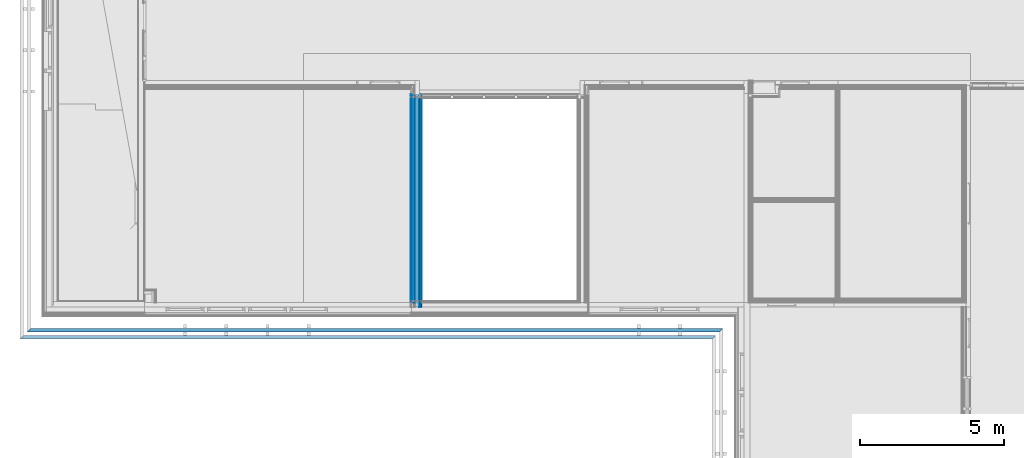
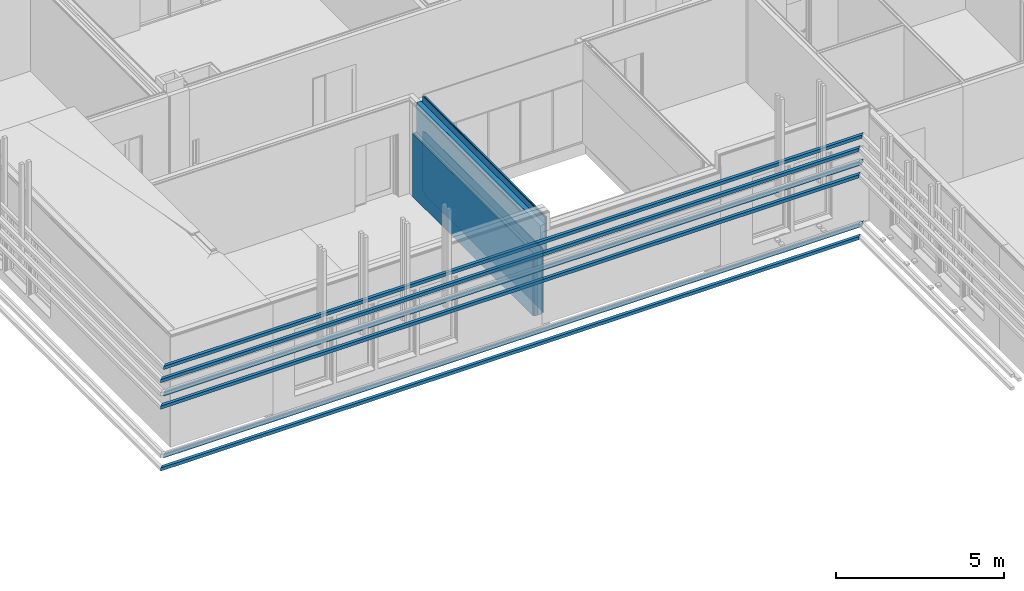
# One storey, part 81 of 139: 13 building element parts, 3 discrete accessories, 2 elements without a shape of their own.
"""IFC2X3 building model written with IfcOpenShell, lengths in millimetres."""

from ifc_helpers import new_model, entity, si_unit, converted_unit, derived_unit, money_unit, direction, frame, origin_with_axes, place, context, subcontext, project, spatial, faceted_brep, material, material_list, type_object, element, aggregate, save


model = new_model("IFC2X3")

# Units and contexts
model_context = context("Model", 3, precision=0.01, world=origin_with_axes(), true_north=direction((0.0, 1.0)))
body_context = subcontext(model_context, "Body", "Model", "MODEL_VIEW")
ifc_project = project(units=[si_unit("LENGTHUNIT", "METRE", prefix="MILLI"), si_unit("AREAUNIT", "SQUARE_METRE"), si_unit("VOLUMEUNIT", "CUBIC_METRE"), converted_unit("PLANEANGLEUNIT", "DEGREE", entity("IfcPlaneAngleMeasure", 0.0174532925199), si_unit("PLANEANGLEUNIT", "RADIAN"), dimensions=[0, 0, 0, 0, 0, 0, 0]), money_unit("EUR"), converted_unit("TIMEUNIT", "Year", entity("IfcTimeMeasure", 31556926.0), si_unit("TIMEUNIT", "SECOND"), dimensions=[0, 0, 1, 0, 0, 0, 0]), si_unit("MASSUNIT", "GRAM", prefix="KILO"), si_unit("THERMODYNAMICTEMPERATUREUNIT", "DEGREE_CELSIUS"), si_unit("LUMINOUSINTENSITYUNIT", "LUMEN"), si_unit("ENERGYUNIT", "JOULE", prefix="MEGA"), derived_unit("THERMALCONDUCTANCEUNIT", [(si_unit("POWERUNIT", "WATT"), 1), (si_unit("LENGTHUNIT", "METRE"), -1), (si_unit("THERMODYNAMICTEMPERATUREUNIT", "KELVIN"), -1)]), derived_unit("SPECIFICHEATCAPACITYUNIT", [(si_unit("ENERGYUNIT", "JOULE"), 1), (si_unit("MASSUNIT", "GRAM", prefix="KILO"), -1), (si_unit("THERMODYNAMICTEMPERATUREUNIT", "KELVIN"), -1)]), derived_unit("MASSDENSITYUNIT", [(si_unit("MASSUNIT", "GRAM", prefix="KILO"), 1), (si_unit("VOLUMEUNIT", "CUBIC_METRE"), -1)])], contexts=[model_context])

# Site, building, storey
site_placement = place(None, origin_with_axes())
site = spatial("IfcSite", under=ifc_project, at=site_placement, Name="Kolde pst 67a", CompositionType="ELEMENT")
building_placement = place(site_placement, origin_with_axes())
building = spatial("IfcBuilding", under=site, at=building_placement, Name="Riigigümnaasium", CompositionType="ELEMENT")
storey_placement = place(building_placement, frame((0.0, 0.0, 4600.0), z_axis=(0.0, 0.0, 1.0), x_axis=(1.0, 0.0, 0.0)))
storey = spatial("IfcBuildingStorey", under=building, at=storey_placement, Name="2. korrus", CompositionType="ELEMENT", Elevation=4600.0)

# Discrete accessories
ifc_material_1 = material(Name="_VÄLISVIIMISTLUS - sõrmjätkatud puitprussid 120x115mm, liitekohad vähemärgatavad, Platowood sõrmjätkatud kuusk või samaväärne; eeltöödeldud tuletõkkevõõbaga, tuletundlikkus B-s1, d0, Woodsafe Exterior WFX™ või samaväärne; kinnitused vastavalt EK osale")
ifc_material_list = material_list([ifc_material_1, ifc_material_1])
discrete_accessory_type = type_object("IfcDiscreteAccessoryType", Name="1+paiksekaitse 4 tk nihkes 2 370 x 355")
discrete_accessory_1_placement = place(storey_placement, frame((-323.006615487, 47673.7129518, 3110.0), z_axis=(0.0, 0.0, 1.0), x_axis=(0.00030565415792, -0.999999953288, 0.0)))
element("IfcDiscreteAccessory", 1, at=discrete_accessory_1_placement, inside=storey, type_object=discrete_accessory_type, material=ifc_material_list, Name="Päikesevarjestus", context=body_context, shape_type="Brep", body=[
    faceted_brep([(495.0, 1345.3259295, 357.5), (493.447495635, 1345.32649514, 357.364173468), (493.489394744, 1460.32648751, 357.367839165), (495.0, 1460.32593714, 357.5), (495.0, 2060.31977462, 357.5), (493.66588954, 2060.3201824, 357.383280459), (493.701039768, 2175.32017703, 357.386355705), (495.0, 2175.31977999, 357.5), (495.0, 2775.32748314, 357.5), (493.937983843, 2775.32787008, 357.407085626), (493.979882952, 2890.32786245, 357.410751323), (495.0, 2890.32749078, 357.5), (495.0, 3490.31984142, 357.5), (494.102974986, 3490.3201156, 357.42152048), (494.138125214, 3605.32011023, 357.424595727), (495.0, 3605.31984679, 357.5), (495.0, 4205.32757559, 357.5), (494.42847155, 4205.32778382, 357.44999774), (494.470370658, 4320.32777619, 357.453663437), (495.0, 4320.32758322, 357.5), (495.0, 4920.31990822, 357.5), (494.540060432, 4920.3200488, 357.459760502), (494.57521066, 5035.32004343, 357.462835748), (495.0, 5035.31991359, 357.5), (495.0, 5635.32912923, 357.5), (494.918959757, 5635.32915876, 357.492909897), (494.960858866, 5750.32915113, 357.496575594), (495.0, 5750.32913687, 357.5), (495.0, 6350.31997502, 357.5), (494.977145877, 6350.319982, 357.498000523), (495.0, 6425.09115995, 357.5), (495.0, 23502.8623069, 357.5), (375.0, 23622.898991, 347.001360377), (375.0, -375.114708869, 347.001360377), (495.0, -495.151415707, 357.5), (495.0, 630.319707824, 357.5), (493.228804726, 630.320249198, 357.345040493), (493.263954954, 745.320243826, 357.348115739), (495.0, 745.319713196, 357.5), (495.0, 1345.3259295, 242.5), (493.447495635, 1345.32649514, 242.5), (493.489394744, 1460.32648751, 242.5), (495.0, 1460.32593714, 242.5), (495.0, 2060.31977462, 242.5), (493.66588954, 2060.3201824, 242.5), (493.701039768, 2175.32017703, 242.5), (495.0, 2175.31977999, 242.5), (495.0, 2775.32748314, 242.5), (493.937983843, 2775.32787008, 242.5), (493.979882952, 2890.32786245, 242.5), (495.0, 2890.32749078, 242.5), (495.0, 3490.31984142, 242.5), (494.102974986, 3490.3201156, 242.5), (494.138125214, 3605.32011023, 242.5), (495.0, 3605.31984679, 242.5), (495.0, 4205.32757559, 242.5), (494.42847155, 4205.32778382, 242.5), (494.470370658, 4320.32777619, 242.5), (495.0, 4320.32758322, 242.5), (495.0, 4920.31990822, 242.5), (494.540060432, 4920.3200488, 242.5), (494.57521066, 5035.32004343, 242.5), (495.0, 5035.31991359, 242.5), (495.0, 5635.32912923, 242.5), (494.918959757, 5635.32915876, 242.5), (494.960858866, 5750.32915113, 242.5), (495.0, 5750.32913687, 242.5), (495.0, 6350.31997502, 242.5), (494.977145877, 6350.319982, 242.5), (495.0, 6425.09115995, 242.5), (495.0, 23502.8623069, 242.5), (375.0, 23622.898991, 242.5), (375.0, -375.114708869, 242.5), (495.0, -495.151415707, 242.5), (495.0, 630.319707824, 242.5), (493.228804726, 630.320249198, 242.5), (493.263954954, 745.320243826, 242.5), (495.0, 745.319713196, 242.5)], [[[0, 1, 2, 3, 4, 5, 6, 7, 8, 9, 10, 11, 12, 13, 14, 15, 16, 17, 18, 19, 20, 21, 22, 23, 24, 25, 26, 27, 28, 29, 30, 31, 32, 33, 34, 35, 36, 37, 38]], [[1, 0, 39, 40]], [[2, 1, 40, 41]], [[3, 2, 41, 42]], [[3, 42, 43, 4]], [[5, 4, 43, 44]], [[6, 5, 44, 45]], [[7, 6, 45, 46]], [[47, 8, 7, 46]], [[9, 8, 47, 48]], [[10, 9, 48, 49]], [[11, 10, 49, 50]], [[11, 50, 51, 12]], [[13, 12, 51, 52]], [[14, 13, 52, 53]], [[15, 14, 53, 54]], [[55, 16, 15, 54]], [[17, 16, 55, 56]], [[18, 17, 56, 57]], [[19, 18, 57, 58]], [[19, 58, 59, 20]], [[21, 20, 59, 60]], [[22, 21, 60, 61]], [[23, 22, 61, 62]], [[63, 24, 23, 62]], [[25, 24, 63, 64]], [[26, 25, 64, 65]], [[27, 26, 65, 66]], [[27, 66, 67, 28]], [[29, 28, 67, 68]], [[69, 30, 29, 68]], [[30, 69, 70, 31]], [[71, 32, 31, 70]], [[71, 72, 33, 32]], [[72, 73, 34, 33]], [[74, 35, 34, 73]], [[36, 35, 74, 75]], [[37, 36, 75, 76]], [[38, 37, 76, 77]], [[39, 0, 38, 77]], [[40, 39, 77, 76, 75, 74, 73, 72, 71, 70, 69, 68, 67, 66, 65, 64, 63, 62, 61, 60, 59, 58, 57, 56, 55, 54, 53, 52, 51, 50, 49, 48, 47, 46, 45, 44, 43, 42, 41]]]),
    faceted_brep([(745.0, 1345.23484448, 117.5), (743.447479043, 1345.23541012, 117.364172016), (743.489378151, 1460.23540249, 117.367837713), (745.0, 1460.23485211, 117.5), (745.0, 2775.23639812, 117.5), (743.93796725, 2775.23678506, 117.407084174), (743.979866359, 2890.23677743, 117.410749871), (745.0, 2890.23640575, 117.5), (745.0, 4205.23649057, 117.5), (744.428454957, 4205.2366988, 117.449996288), (744.470354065, 4320.23669117, 117.453661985), (745.0, 4320.2364982, 117.5), (745.0, 5635.23804421, 117.5), (744.918943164, 5635.23807374, 117.492908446), (744.960842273, 5750.23806611, 117.496574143), (745.0, 5750.23805184, 117.5), (745.0, 23252.7858817, 117.5), (625.0, 23372.8225658, 107.001360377), (625.0, -625.191181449, 107.001360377), (745.0, -745.227888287, 117.5), (745.0, 1345.23484448, 2.5), (743.447479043, 1345.23541012, 2.5), (743.489378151, 1460.23540249, 2.5), (745.0, 1460.23485211, 2.5), (745.0, 2775.23639812, 2.5), (743.93796725, 2775.23678506, 2.5), (743.979866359, 2890.23677743, 2.5), (745.0, 2890.23640575, 2.5), (745.0, 4205.23649057, 2.5), (744.428454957, 4205.2366988, 2.5), (744.470354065, 4320.23669117, 2.5), (745.0, 4320.2364982, 2.5), (745.0, 5635.23804421, 2.5), (744.918943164, 5635.23807374, 2.5), (744.960842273, 5750.23806611, 2.5), (745.0, 5750.23805184, 2.5), (745.0, 23252.7858817, 2.5), (625.0, 23372.8225658, 2.5), (625.0, -625.191181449, 2.5), (745.0, -745.227888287, 2.5)], [[[0, 1, 2, 3, 4, 5, 6, 7, 8, 9, 10, 11, 12, 13, 14, 15, 16, 17, 18, 19]], [[1, 0, 20, 21]], [[2, 1, 21, 22]], [[3, 2, 22, 23]], [[3, 23, 24, 4]], [[5, 4, 24, 25]], [[6, 5, 25, 26]], [[7, 6, 26, 27]], [[7, 27, 28, 8]], [[9, 8, 28, 29]], [[10, 9, 29, 30]], [[11, 10, 30, 31]], [[11, 31, 32, 12]], [[13, 12, 32, 33]], [[14, 13, 33, 34]], [[15, 14, 34, 35]], [[15, 35, 36, 16]], [[37, 17, 16, 36]], [[37, 38, 18, 17]], [[38, 39, 19, 18]], [[20, 0, 19, 39]], [[21, 20, 39, 38, 37, 36, 35, 34, 33, 32, 31, 30, 29, 28, 27, 26, 25, 24, 23, 22]]]),
])
discrete_accessory_2_placement = place(storey_placement, frame((-323.006615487, 47673.7129518, -100.0), z_axis=(0.0, 0.0, 1.0), x_axis=(0.000305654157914, -0.999999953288, 0.0)))
element("IfcDiscreteAccessory", 2, at=discrete_accessory_2_placement, inside=storey, type_object=discrete_accessory_type, material=ifc_material_list, Name="Päikesevarjestus", context=body_context, shape_type="Brep", body=[
    faceted_brep([(495.0, 1345.3259295, 357.5), (493.447495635, 1345.32649514, 357.364173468), (493.489394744, 1460.32648751, 357.367839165), (495.0, 1460.32593714, 357.5), (495.0, 2060.31977462, 357.5), (493.66588954, 2060.3201824, 357.383280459), (493.701039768, 2175.32017703, 357.386355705), (495.0, 2175.31977999, 357.5), (495.0, 2775.32748314, 357.5), (493.937983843, 2775.32787008, 357.407085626), (493.979882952, 2890.32786245, 357.410751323), (495.0, 2890.32749078, 357.5), (495.0, 3490.31984142, 357.5), (494.102974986, 3490.3201156, 357.42152048), (494.138125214, 3605.32011023, 357.424595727), (495.0, 3605.31984679, 357.5), (495.0, 4205.32757559, 357.5), (494.42847155, 4205.32778382, 357.44999774), (494.470370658, 4320.32777619, 357.453663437), (495.0, 4320.32758322, 357.5), (495.0, 4920.31990822, 357.5), (494.540060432, 4920.3200488, 357.459760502), (494.57521066, 5035.32004343, 357.462835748), (495.0, 5035.31991359, 357.5), (495.0, 5635.32912923, 357.5), (494.918959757, 5635.32915876, 357.492909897), (494.960858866, 5750.32915113, 357.496575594), (495.0, 5750.32913687, 357.5), (495.0, 6350.31997502, 357.5), (494.977145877, 6350.319982, 357.498000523), (495.0, 6425.09116007, 357.5), (495.0, 23502.8674899, 357.5), (375.0, 23622.9029175, 347.001360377), (375.0, -375.114708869, 347.001360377), (495.0, -495.151415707, 357.5), (495.0, 630.319707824, 357.5), (493.228804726, 630.320249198, 357.345040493), (493.263954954, 745.320243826, 357.348115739), (495.0, 745.319713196, 357.5), (495.0, 1345.3259295, 242.5), (493.447495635, 1345.32649514, 242.5), (493.489394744, 1460.32648751, 242.5), (495.0, 1460.32593714, 242.5), (495.0, 2060.31977462, 242.5), (493.66588954, 2060.3201824, 242.5), (493.701039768, 2175.32017703, 242.5), (495.0, 2175.31977999, 242.5), (495.0, 2775.32748314, 242.5), (493.937983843, 2775.32787008, 242.5), (493.979882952, 2890.32786245, 242.5), (495.0, 2890.32749078, 242.5), (495.0, 3490.31984142, 242.5), (494.102974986, 3490.3201156, 242.5), (494.138125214, 3605.32011023, 242.5), (495.0, 3605.31984679, 242.5), (495.0, 4205.32757559, 242.5), (494.42847155, 4205.32778382, 242.5), (494.470370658, 4320.32777619, 242.5), (495.0, 4320.32758322, 242.5), (495.0, 4920.31990822, 242.5), (494.540060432, 4920.3200488, 242.5), (494.57521066, 5035.32004343, 242.5), (495.0, 5035.31991359, 242.5), (495.0, 5635.32912923, 242.5), (494.918959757, 5635.32915876, 242.5), (494.960858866, 5750.32915113, 242.5), (495.0, 5750.32913687, 242.5), (495.0, 6350.31997502, 242.5), (494.977145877, 6350.319982, 242.5), (495.0, 6425.09116007, 242.5), (495.0, 23502.8674899, 242.5), (375.0, 23622.9029175, 242.5), (375.0, -375.114708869, 242.5), (495.0, -495.151415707, 242.5), (495.0, 630.319707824, 242.5), (493.228804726, 630.320249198, 242.5), (493.263954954, 745.320243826, 242.5), (495.0, 745.319713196, 242.5)], [[[0, 1, 2, 3, 4, 5, 6, 7, 8, 9, 10, 11, 12, 13, 14, 15, 16, 17, 18, 19, 20, 21, 22, 23, 24, 25, 26, 27, 28, 29, 30, 31, 32, 33, 34, 35, 36, 37, 38]], [[1, 0, 39, 40]], [[2, 1, 40, 41]], [[3, 2, 41, 42]], [[3, 42, 43, 4]], [[5, 4, 43, 44]], [[6, 5, 44, 45]], [[7, 6, 45, 46]], [[47, 8, 7, 46]], [[9, 8, 47, 48]], [[10, 9, 48, 49]], [[11, 10, 49, 50]], [[11, 50, 51, 12]], [[13, 12, 51, 52]], [[14, 13, 52, 53]], [[15, 14, 53, 54]], [[55, 16, 15, 54]], [[17, 16, 55, 56]], [[18, 17, 56, 57]], [[19, 18, 57, 58]], [[19, 58, 59, 20]], [[21, 20, 59, 60]], [[22, 21, 60, 61]], [[23, 22, 61, 62]], [[63, 24, 23, 62]], [[25, 24, 63, 64]], [[26, 25, 64, 65]], [[27, 26, 65, 66]], [[27, 66, 67, 28]], [[29, 28, 67, 68]], [[69, 30, 29, 68]], [[30, 69, 70, 31]], [[71, 32, 31, 70]], [[71, 72, 33, 32]], [[72, 73, 34, 33]], [[74, 35, 34, 73]], [[36, 35, 74, 75]], [[37, 36, 75, 76]], [[38, 37, 76, 77]], [[39, 0, 38, 77]], [[40, 39, 77, 76, 75, 74, 73, 72, 71, 70, 69, 68, 67, 66, 65, 64, 63, 62, 61, 60, 59, 58, 57, 56, 55, 54, 53, 52, 51, 50, 49, 48, 47, 46, 45, 44, 43, 42, 41]]]),
    faceted_brep([(745.0, 1345.23484448, 117.5), (743.447479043, 1345.23541012, 117.364172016), (743.489378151, 1460.23540249, 117.367837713), (745.0, 1460.23485211, 117.5), (745.0, 2775.23639812, 117.5), (743.93796725, 2775.23678506, 117.407084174), (743.979866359, 2890.23677743, 117.410749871), (745.0, 2890.23640575, 117.5), (745.0, 4205.23649057, 117.5), (744.428454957, 4205.2366988, 117.449996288), (744.470354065, 4320.23669117, 117.453661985), (745.0, 4320.2364982, 117.5), (745.0, 5635.23804421, 117.5), (744.918943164, 5635.23807374, 117.492908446), (744.960842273, 5750.23806611, 117.496574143), (745.0, 5750.23805184, 117.5), (745.0, 23252.7936823, 117.5), (625.0, 23372.82911, 107.001360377), (625.0, -625.191181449, 107.001360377), (745.0, -745.227888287, 117.5), (745.0, 1345.23484448, 2.5), (743.447479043, 1345.23541012, 2.5), (743.489378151, 1460.23540249, 2.5), (745.0, 1460.23485211, 2.5), (745.0, 2775.23639812, 2.5), (743.93796725, 2775.23678506, 2.5), (743.979866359, 2890.23677743, 2.5), (745.0, 2890.23640575, 2.5), (745.0, 4205.23649057, 2.5), (744.428454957, 4205.2366988, 2.5), (744.470354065, 4320.23669117, 2.5), (745.0, 4320.2364982, 2.5), (745.0, 5635.23804421, 2.5), (744.918943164, 5635.23807374, 2.5), (744.960842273, 5750.23806611, 2.5), (745.0, 5750.23805184, 2.5), (745.0, 23252.7936823, 2.5), (625.0, 23372.82911, 2.5), (625.0, -625.191181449, 2.5), (745.0, -745.227888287, 2.5)], [[[0, 1, 2, 3, 4, 5, 6, 7, 8, 9, 10, 11, 12, 13, 14, 15, 16, 17, 18, 19]], [[1, 0, 20, 21]], [[2, 1, 21, 22]], [[3, 2, 22, 23]], [[3, 23, 24, 4]], [[5, 4, 24, 25]], [[6, 5, 25, 26]], [[7, 6, 26, 27]], [[7, 27, 28, 8]], [[9, 8, 28, 29]], [[10, 9, 29, 30]], [[11, 10, 30, 31]], [[11, 31, 32, 12]], [[13, 12, 32, 33]], [[14, 13, 33, 34]], [[15, 14, 34, 35]], [[15, 35, 36, 16]], [[37, 17, 16, 36]], [[37, 38, 18, 17]], [[38, 39, 19, 18]], [[20, 0, 19, 39]], [[21, 20, 39, 38, 37, 36, 35, 34, 33, 32, 31, 30, 29, 28, 27, 26, 25, 24, 23, 22]]]),
])
discrete_accessory_3_placement = place(storey_placement, frame((-323.006615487, 47673.7129518, 2150.0), z_axis=(0.0, 0.0, 1.0), x_axis=(0.00030565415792, -0.999999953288, 0.0)))
element("IfcDiscreteAccessory", 3, at=discrete_accessory_3_placement, inside=storey, type_object=discrete_accessory_type, material=ifc_material_list, Name="Päikesevarjestus", context=body_context, shape_type="Brep", body=[
    faceted_brep([(495.0, 1345.3259295, 357.5), (493.447495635, 1345.32649514, 357.364173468), (493.489394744, 1460.32648751, 357.367839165), (495.0, 1460.32593714, 357.5), (495.0, 2060.31977462, 357.5), (493.66588954, 2060.3201824, 357.383280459), (493.701039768, 2175.32017703, 357.386355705), (495.0, 2175.31977999, 357.5), (495.0, 2775.32748314, 357.5), (493.937983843, 2775.32787008, 357.407085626), (493.979882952, 2890.32786245, 357.410751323), (495.0, 2890.32749078, 357.5), (495.0, 3490.31984142, 357.5), (494.102974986, 3490.3201156, 357.42152048), (494.138125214, 3605.32011023, 357.424595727), (495.0, 3605.31984679, 357.5), (495.0, 4205.32757559, 357.5), (494.42847155, 4205.32778382, 357.44999774), (494.470370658, 4320.32777619, 357.453663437), (495.0, 4320.32758322, 357.5), (495.0, 4920.31990822, 357.5), (494.540060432, 4920.3200488, 357.459760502), (494.57521066, 5035.32004343, 357.462835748), (495.0, 5035.31991359, 357.5), (495.0, 5635.32912923, 357.5), (494.918959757, 5635.32915876, 357.492909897), (494.960858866, 5750.32915113, 357.496575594), (495.0, 5750.32913687, 357.5), (495.0, 6350.31997502, 357.5), (494.977145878, 6350.319982, 357.498000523), (495.0, 6425.09115991, 357.5), (495.0, 23502.8623069, 357.5), (375.0, 23622.898991, 347.001360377), (375.0, -375.114708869, 347.001360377), (495.0, -495.151415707, 357.5), (495.0, 630.319707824, 357.5), (493.228804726, 630.320249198, 357.345040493), (493.263954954, 745.320243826, 357.348115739), (495.0, 745.319713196, 357.5), (495.0, 1345.3259295, 242.5), (493.447495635, 1345.32649514, 242.5), (493.489394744, 1460.32648751, 242.5), (495.0, 1460.32593714, 242.5), (495.0, 2060.31977462, 242.5), (493.66588954, 2060.3201824, 242.5), (493.701039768, 2175.32017703, 242.5), (495.0, 2175.31977999, 242.5), (495.0, 2775.32748314, 242.5), (493.937983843, 2775.32787008, 242.5), (493.979882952, 2890.32786245, 242.5), (495.0, 2890.32749078, 242.5), (495.0, 3490.31984142, 242.5), (494.102974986, 3490.3201156, 242.5), (494.138125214, 3605.32011023, 242.5), (495.0, 3605.31984679, 242.5), (495.0, 4205.32757559, 242.5), (494.42847155, 4205.32778382, 242.5), (494.470370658, 4320.32777619, 242.5), (495.0, 4320.32758322, 242.5), (495.0, 4920.31990822, 242.5), (494.540060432, 4920.3200488, 242.5), (494.57521066, 5035.32004343, 242.5), (495.0, 5035.31991359, 242.5), (495.0, 5635.32912923, 242.5), (494.918959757, 5635.32915876, 242.5), (494.960858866, 5750.32915113, 242.5), (495.0, 5750.32913687, 242.5), (495.0, 6350.31997502, 242.5), (494.977145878, 6350.319982, 242.5), (495.0, 6425.09115991, 242.5), (495.0, 23502.8623069, 242.5), (375.0, 23622.898991, 242.5), (375.0, -375.114708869, 242.5), (495.0, -495.151415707, 242.5), (495.0, 630.319707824, 242.5), (493.228804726, 630.320249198, 242.5), (493.263954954, 745.320243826, 242.5), (495.0, 745.319713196, 242.5)], [[[0, 1, 2, 3, 4, 5, 6, 7, 8, 9, 10, 11, 12, 13, 14, 15, 16, 17, 18, 19, 20, 21, 22, 23, 24, 25, 26, 27, 28, 29, 30, 31, 32, 33, 34, 35, 36, 37, 38]], [[1, 0, 39, 40]], [[2, 1, 40, 41]], [[3, 2, 41, 42]], [[3, 42, 43, 4]], [[5, 4, 43, 44]], [[6, 5, 44, 45]], [[7, 6, 45, 46]], [[47, 8, 7, 46]], [[9, 8, 47, 48]], [[10, 9, 48, 49]], [[11, 10, 49, 50]], [[11, 50, 51, 12]], [[13, 12, 51, 52]], [[14, 13, 52, 53]], [[15, 14, 53, 54]], [[55, 16, 15, 54]], [[17, 16, 55, 56]], [[18, 17, 56, 57]], [[19, 18, 57, 58]], [[19, 58, 59, 20]], [[21, 20, 59, 60]], [[22, 21, 60, 61]], [[23, 22, 61, 62]], [[63, 24, 23, 62]], [[25, 24, 63, 64]], [[26, 25, 64, 65]], [[27, 26, 65, 66]], [[27, 66, 67, 28]], [[29, 28, 67, 68]], [[69, 30, 29, 68]], [[30, 69, 70, 31]], [[71, 32, 31, 70]], [[71, 72, 33, 32]], [[72, 73, 34, 33]], [[74, 35, 34, 73]], [[36, 35, 74, 75]], [[37, 36, 75, 76]], [[38, 37, 76, 77]], [[39, 0, 38, 77]], [[40, 39, 77, 76, 75, 74, 73, 72, 71, 70, 69, 68, 67, 66, 65, 64, 63, 62, 61, 60, 59, 58, 57, 56, 55, 54, 53, 52, 51, 50, 49, 48, 47, 46, 45, 44, 43, 42, 41]]]),
    faceted_brep([(745.0, 1345.23484448, 117.5), (743.447479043, 1345.23541012, 117.364172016), (743.489378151, 1460.23540249, 117.367837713), (745.0, 1460.23485211, 117.5), (745.0, 2775.23639812, 117.5), (743.93796725, 2775.23678506, 117.407084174), (743.979866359, 2890.23677743, 117.410749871), (745.0, 2890.23640575, 117.5), (745.0, 4205.23649057, 117.5), (744.428454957, 4205.2366988, 117.449996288), (744.470354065, 4320.23669117, 117.453661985), (745.0, 4320.2364982, 117.5), (745.0, 5635.23804421, 117.5), (744.918943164, 5635.23807374, 117.492908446), (744.960842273, 5750.23806611, 117.496574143), (745.0, 5750.23805184, 117.5), (745.0, 23252.7858817, 117.5), (625.0, 23372.8225658, 107.001360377), (625.0, -625.191181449, 107.001360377), (745.0, -745.227888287, 117.5), (745.0, 1345.23484448, 2.5), (743.447479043, 1345.23541012, 2.5), (743.489378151, 1460.23540249, 2.5), (745.0, 1460.23485211, 2.5), (745.0, 2775.23639812, 2.5), (743.93796725, 2775.23678506, 2.5), (743.979866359, 2890.23677743, 2.5), (745.0, 2890.23640575, 2.5), (745.0, 4205.23649057, 2.5), (744.428454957, 4205.2366988, 2.5), (744.470354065, 4320.23669117, 2.5), (745.0, 4320.2364982, 2.5), (745.0, 5635.23804421, 2.5), (744.918943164, 5635.23807374, 2.5), (744.960842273, 5750.23806611, 2.5), (745.0, 5750.23805184, 2.5), (745.0, 23252.7858817, 2.5), (625.0, 23372.8225658, 2.5), (625.0, -625.191181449, 2.5), (745.0, -745.227888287, 2.5)], [[[0, 1, 2, 3, 4, 5, 6, 7, 8, 9, 10, 11, 12, 13, 14, 15, 16, 17, 18, 19]], [[1, 0, 20, 21]], [[2, 1, 21, 22]], [[3, 2, 22, 23]], [[3, 23, 24, 4]], [[5, 4, 24, 25]], [[6, 5, 25, 26]], [[7, 6, 26, 27]], [[7, 27, 28, 8]], [[9, 8, 28, 29]], [[10, 9, 29, 30]], [[11, 10, 30, 31]], [[11, 31, 32, 12]], [[13, 12, 32, 33]], [[14, 13, 33, 34]], [[15, 14, 34, 35]], [[15, 35, 36, 16]], [[37, 17, 16, 36]], [[37, 38, 18, 17]], [[38, 39, 19, 18]], [[20, 0, 19, 39]], [[21, 20, 39, 38, 37, 36, 35, 34, 33, 32, 31, 30, 29, 28, 27, 26, 25, 24, 23, 22]]]),
])

# Wall, building element parts
wall_type_1 = type_object("IfcWallType", Name="SS-CLT-16/10_vineer18+karkass60+CLT+vill75+krohv 378", PredefinedType="NOTDEFINED")
wall_1_placement = place(storey_placement, frame((12857.9974942, 55414.9401047, 0.0), z_axis=(0.0, 0.0, 1.0), x_axis=(0.0, -1.0, 0.0)))
wall_1 = element("IfcWall", 4, at=wall_1_placement, inside=storey, type_object=wall_type_1, Name="Sisesein")
ifc_material_2 = material(Name="_PLAATMATERJAL - niiskuskindel vineerplaat, kvaliteediklass BB")
building_element_part_1_placement = place(wall_1_placement, origin_with_axes())
building_element_part_1 = element("IfcBuildingElementPart", 5, at=building_element_part_1_placement, material=ifc_material_2, Name="_PLAATMATERJAL - niiskuskindel vineerplaat, kvaliteediklass BB", context=body_context, shape_type="Brep", body=[
    faceted_brep([(109.999045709, 0.0, 50.0), (109.999045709, 0.0, 2250.00008047), (129.999045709, 0.0, 2250.00008047), (129.999045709, 0.0, 2300.00008047), (7164.95927387, 0.0, 2300.0), (7164.95927387, 0.0, 0.0), (129.999045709, 0.0, 0.0), (129.999045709, 0.0, 50.0), (109.999265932, -18.0, 2250.00008047), (109.999265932, -18.0, 50.0), (129.999265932, -18.0, 2250.00008047), (129.999265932, -18.0, 2300.00008047), (7164.95927387, -18.0, 2300.0), (7164.95927387, -18.0, 0.0), (129.999265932, -18.0, 0.0), (129.999265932, -18.0, 50.0)], [[[0, 1, 2, 3, 4, 5, 6, 7]], [[8, 1, 0, 9]], [[1, 8, 10, 2]], [[10, 11, 3, 2]], [[4, 3, 11, 12]], [[4, 12, 13, 5]], [[5, 13, 14, 6]], [[14, 15, 7, 6]], [[9, 0, 7, 15]], [[8, 9, 15, 14, 13, 12, 11, 10]]]),
    faceted_brep([(89.9992659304, -18.0, 2250.00008047), (89.9990457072, 0.0, 2250.00008047), (-0.000954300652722, -1.16759935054e-08, 2250.00008047), (-0.000734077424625, -18.000000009, 2250.00008047), (89.9990457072, 0.0, 50.0), (89.9992659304, -18.0, 50.0), (-0.000954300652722, -1.16759935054e-08, 50.0), (-0.000734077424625, -18.000000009, 50.0)], [[[0, 1, 2, 3]], [[4, 1, 0, 5]], [[1, 4, 6, 2]], [[7, 3, 2, 6]], [[5, 0, 3, 7]], [[4, 5, 7, 6]]]),
])
ifc_material_3 = material(Name="_KARKASS - puitroov 60x40mm, s. 600mm")
building_element_part_2_placement = place(wall_1_placement, origin_with_axes())
building_element_part_2 = element("IfcBuildingElementPart", 6, at=building_element_part_2_placement, material=ifc_material_3, Name="_KARKASS - puitroov 60x40mm, s. 600mm", context=body_context, shape_type="Brep", body=[
    faceted_brep([(109.999265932, -18.0, 50.0), (109.999265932, -18.0, 2250.00008047), (129.999265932, -18.0, 2250.00008047), (129.999265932, -18.0, 2300.00008047), (7182.95927387, -18.0, 2300.0), (7182.95927387, -18.0, 0.0), (129.999265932, -18.0, 0.0), (129.999265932, -18.0, 50.0), (109.999388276, -27.9998432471, 2250.00008047), (109.999388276, -27.9998432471, 50.0), (129.999388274, -27.9995985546, 2250.00008047), (130.000000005, -77.9995985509, 0.0), (130.000000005, -77.9995985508, 2300.00008047), (129.999388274, -27.9995985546, 50.0), (7182.95927387, -78.0, 2300.0), (7182.95927387, -78.0, 0.0)], [[[0, 1, 2, 3, 4, 5, 6, 7]], [[8, 1, 0, 9]], [[1, 8, 10, 2]], [[6, 11, 12, 3, 2, 10, 13, 7]], [[14, 4, 3, 12]], [[4, 14, 15, 5]], [[15, 11, 6, 5]], [[9, 0, 7, 13]], [[8, 9, 13, 10]], [[15, 14, 12, 11]]]),
    faceted_brep([(89.9993882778, -28.0000879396, 2250.00008047), (89.9992659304, -18.0, 2250.00008047), (-0.000734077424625, -18.000000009, 2250.00008047), (-0.000611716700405, -28.0011890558, 2250.00008047), (89.9992659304, -18.0, 50.0), (89.9993882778, -28.0000879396, 50.0), (-0.000734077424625, -18.000000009, 50.0), (-0.000611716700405, -28.0011890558, 50.0)], [[[0, 1, 2, 3]], [[4, 1, 0, 5]], [[1, 4, 6, 2]], [[2, 6, 7, 3]], [[5, 0, 3, 7]], [[4, 5, 7, 6]]]),
])
ifc_material_4 = material(Name="_KANDETARIND - CLT ristkihtliimpuit vastavalt EK osale, CLT paigaldusvuugid teibitakse ROTHOBLAAS teibiga")
building_element_part_3_placement = place(wall_1_placement, origin_with_axes())
building_element_part_3 = element("IfcBuildingElementPart", 7, at=building_element_part_3_placement, material=ifc_material_4, Name="_KANDETARIND - CLT ristkihtliimpuit vastavalt EK osale, CLT paigaldusvuugid teibitakse ROTHOBLAAS teibiga", context=body_context, shape_type="Brep", body=[
    faceted_brep([(0.0, -78.0, 0.0), (0.0, -78.0, 2300.0), (7214.95927387, -78.0, 2300.0), (7214.95927387, -78.0, 0.0), (120.000000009, -78.0, 50.0), (120.000000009, -78.0, 2250.00008047), (110.000000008, -78.0, 2250.00008047), (110.000000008, -78.0, 50.0), (90.0000000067, -78.0, 50.0), (90.0000000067, -78.0, 2250.00008047), (30.0000000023, -78.0, 2250.00008047), (30.0000000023, -78.0, 50.0), (0.0, -238.0, 0.0), (0.0, -238.0, 2300.0), (7214.95927387, -238.0, 2300.0), (7214.95927387, -238.0, 0.0), (120.000061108, -82.9939577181, 50.0), (120.000061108, -82.9939577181, 2250.00008047), (110.000061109, -82.9940800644, 2250.00008047), (110.000061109, -82.9940800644, 50.0), (90.0000611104, -82.9943247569, 50.0), (90.0000611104, -82.9943247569, 2250.00008047), (30.0000611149, -82.9950588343, 2250.00008047), (30.0000611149, -82.9950588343, 50.0)], [[[0, 1, 2, 3], [4, 5, 6, 7], [8, 9, 10, 11]], [[1, 0, 12, 13]], [[1, 13, 14, 2]], [[15, 3, 2, 14]], [[12, 0, 3, 15]], [[5, 4, 16, 17]], [[6, 5, 17, 18]], [[7, 6, 18, 19]], [[4, 7, 19, 16]], [[9, 8, 20, 21]], [[10, 9, 21, 22]], [[11, 10, 22, 23]], [[8, 11, 23, 20]], [[13, 12, 15, 14]], [[17, 16, 19, 18]], [[23, 22, 21, 20]]]),
])
ifc_material_5 = material(Name="_ÕHKVAHE")
building_element_part_4_placement = place(wall_1_placement, origin_with_axes())
building_element_part_4 = element("IfcBuildingElementPart", 8, at=building_element_part_4_placement, material=ifc_material_5, Name="_ÕHKVAHE", context=body_context, shape_type="Brep", body=[
    faceted_brep([(7214.95927387, -238.0, 2300.0), (0.0, -238.0, 2300.0), (0.0, -253.0, 2300.0), (7214.95927387, -253.0, 2300.0), (7214.95927387, -238.0, 0.0), (0.0, -238.0, 0.0), (0.0, -253.0, 0.0), (7214.95927387, -253.0, 0.0)], [[[0, 1, 2, 3]], [[4, 5, 1, 0]], [[2, 1, 5, 6]], [[3, 2, 6, 7]], [[3, 7, 4, 0]], [[7, 6, 5, 4]]]),
])
ifc_material_6 = material(Name="_KARKASS - metallkarkass CW 75/50/06 ja UW 75/40/06, samm 600, vahel mineraalvill, helineeldetegur αw = 1.0,  ISOVER ACOUSTIC 75mm või samaväärne")
building_element_part_5_placement = place(wall_1_placement, origin_with_axes())
building_element_part_5 = element("IfcBuildingElementPart", 9, at=building_element_part_5_placement, material=ifc_material_6, Name="_KARKASS - metallkarkass CW 75/50/06 ja UW 75/40/06, samm 600, vahel mineraalvill, helineeldetegur αw = 1.0,  ISOVER ACOUSTIC 75mm või samaväärne", context=body_context, shape_type="Brep", body=[
    faceted_brep([(7214.95927387, -253.0, 2300.0), (0.0, -253.0, 2300.0), (0.0, -328.0, 2300.0), (7214.95927387, -328.0, 2300.0), (7214.95927387, -253.0, 0.0), (0.0, -253.0, 0.0), (0.0, -328.0, 0.0), (7214.95927387, -328.0, 0.0)], [[[0, 1, 2, 3]], [[4, 5, 1, 0]], [[2, 1, 5, 6]], [[3, 2, 6, 7]], [[3, 7, 4, 0]], [[7, 6, 5, 4]]]),
])
ifc_material_7 = material(Name="_PLAATMATERJAL - OSB3 plaat")
building_element_part_6_placement = place(wall_1_placement, origin_with_axes())
building_element_part_6 = element("IfcBuildingElementPart", 10, at=building_element_part_6_placement, material=ifc_material_7, Name="_PLAATMATERJAL - OSB3 plaat", context=body_context, shape_type="Brep", body=[
    faceted_brep([(7182.95927387, -328.0, 2300.0), (0.0, -328.0, 2300.0), (0.0, -338.0, 2300.0), (7182.95927387, -338.0, 2300.0), (7182.95927387, -328.0, 0.0), (0.0, -328.0, 0.0), (0.0, -338.0, 0.0), (7182.95927387, -338.0, 0.0)], [[[0, 1, 2, 3]], [[4, 5, 1, 0]], [[2, 1, 5, 6]], [[3, 2, 6, 7]], [[3, 7, 4, 0]], [[7, 6, 5, 4]]]),
])
ifc_material_8 = material(Name="_PLAATMATERJAL - tuletõkkekipsplaat, Knauf Red GKF või samaväärne")
building_element_part_7_placement = place(wall_1_placement, origin_with_axes())
building_element_part_7 = element("IfcBuildingElementPart", 11, at=building_element_part_7_placement, material=ifc_material_8, Name="_PLAATMATERJAL - tuletõkkekipsplaat, Knauf Red GKF või samaväärne", context=body_context, shape_type="Brep", body=[
    faceted_brep([(7182.95927387, -338.0, 2300.0), (0.0, -338.0, 2300.0), (0.0, -353.0, 2300.0), (7182.95927387, -353.0, 2300.0), (7182.95927387, -338.0, 0.0), (0.0, -338.0, 0.0), (0.0, -353.0, 0.0), (7182.95927387, -353.0, 0.0)], [[[0, 1, 2, 3]], [[4, 5, 1, 0]], [[2, 1, 5, 6]], [[3, 2, 6, 7]], [[3, 7, 4, 0]], [[7, 6, 5, 4]]]),
])
building_element_part_8_placement = place(wall_1_placement, origin_with_axes())
building_element_part_8 = element("IfcBuildingElementPart", 12, at=building_element_part_8_placement, material=ifc_material_8, Name="_PLAATMATERJAL - tuletõkkekipsplaat, Knauf Red GKF või samaväärne", context=body_context, shape_type="Brep", body=[
    faceted_brep([(7182.95927387, -353.0, 2300.0), (0.0, -353.0, 2300.0), (0.0, -368.0, 2300.0), (7182.95927387, -368.0, 2300.0), (7182.95927387, -353.0, 0.0), (0.0, -353.0, 0.0), (0.0, -368.0, 0.0), (7182.95927387, -368.0, 0.0)], [[[0, 1, 2, 3]], [[4, 5, 1, 0]], [[2, 1, 5, 6]], [[3, 2, 6, 7]], [[3, 7, 4, 0]], [[7, 6, 5, 4]]]),
])
ifc_material_9 = material(Name="_VIIMISTLUSKIHT - viimistlus vastavalt SA osale")
building_element_part_9_placement = place(wall_1_placement, origin_with_axes())
building_element_part_9 = element("IfcBuildingElementPart", 13, at=building_element_part_9_placement, material=ifc_material_9, Name="_VIIMISTLUSKIHT - viimistlus vastavalt SA osale", context=body_context, shape_type="Brep", body=[
    faceted_brep([(7164.95927387, -368.0, 2300.0), (0.0, -368.0, 2300.0), (0.0, -378.0, 2300.0), (7164.95927387, -378.0, 2300.0), (7164.95927387, -368.0, 0.0), (0.0, -368.0, 0.0), (0.0, -378.0, 0.0), (7164.95927387, -378.0, 0.0)], [[[0, 1, 2, 3]], [[4, 5, 1, 0]], [[2, 1, 5, 6]], [[3, 2, 6, 7]], [[3, 7, 4, 0]], [[7, 6, 5, 4]]]),
])
aggregate(wall_1, [building_element_part_1, building_element_part_2, building_element_part_3, building_element_part_4, building_element_part_5, building_element_part_6, building_element_part_7, building_element_part_8, building_element_part_9])

wall_type_2 = type_object("IfcWallType", Name="SS-CLT-16/11_ak. plaat50+vineer12+distansliist18+CLT+vill75+krohv 380", PredefinedType="NOTDEFINED")
wall_2_placement = place(storey_placement, frame((12859.9974942, 55414.9401047, 2300.0), z_axis=(0.0, 0.0, 1.0), x_axis=(0.0, -1.0, 0.0)))
wall_2 = element("IfcWall", 14, at=wall_2_placement, inside=storey, type_object=wall_type_2, Name="Sisesein")
ifc_material_10 = material(Name="_SOOJUSTUS - akustiline vill Ecophon Industry must TAL PE 50mm või samaväärne")
building_element_part_10_placement = place(wall_2_placement, origin_with_axes())
building_element_part_10 = element("IfcBuildingElementPart", 15, at=building_element_part_10_placement, material=ifc_material_10, Name="_SOOJUSTUS - akustiline vill Ecophon Industry must TAL PE 50mm või samaväärne", context=body_context, shape_type="Brep", body=[
    faceted_brep([(0.0, -50.0, 1059.0), (0.0, 0.0, 1059.0), (0.0, 0.0, 0.0), (0.0, -50.0, 0.0), (96.9684071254, 0.0, 1059.0), (96.9684071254, -50.0, 1059.0), (96.9684071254, 0.0, 1300.0), (7374.0, 0.0, 1300.0), (7374.0, 0.0, 0.0), (7374.0, -50.0, 0.0), (7374.0, -50.0, 1300.0), (96.9684071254, -50.0, 1300.0)], [[[0, 1, 2, 3]], [[4, 1, 0, 5]], [[4, 6, 7, 8, 2, 1]], [[2, 8, 9, 3]], [[5, 0, 3, 9, 10, 11]], [[4, 5, 11, 6]], [[6, 11, 10, 7]], [[7, 10, 9, 8]]]),
])
building_element_part_11_placement = place(wall_2_placement, origin_with_axes())
building_element_part_11 = element("IfcBuildingElementPart", 16, at=building_element_part_11_placement, material=ifc_material_2, Name="_PLAATMATERJAL - niiskuskindel vineerplaat, kvaliteediklass BB", context=body_context, shape_type="Brep", body=[
    faceted_brep([(0.0, -62.0, 1059.0), (0.0, -50.0, 1059.0), (0.0, -50.0, 0.0), (0.0, -62.0, 0.0), (96.9684071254, -50.0, 1059.0), (96.9684071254, -62.0, 1059.0), (96.9684071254, -50.0, 1300.0), (7374.0, -50.0, 1300.0), (7374.0, -50.0, 0.0), (7374.0, -62.0, 0.0), (7374.0, -62.0, 1300.0), (96.9684071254, -62.0, 1300.0)], [[[0, 1, 2, 3]], [[4, 1, 0, 5]], [[4, 6, 7, 8, 2, 1]], [[2, 8, 9, 3]], [[5, 0, 3, 9, 10, 11]], [[4, 5, 11, 6]], [[6, 11, 10, 7]], [[7, 10, 9, 8]]]),
])
ifc_material_11 = material(Name="_KARKASS - distantsliist 18x45mm, s. 600mm")
building_element_part_12_placement = place(wall_2_placement, origin_with_axes())
building_element_part_12 = element("IfcBuildingElementPart", 17, at=building_element_part_12_placement, material=ifc_material_11, Name="_KARKASS - distantsliist 18x45mm, s. 600mm", context=body_context, shape_type="Brep", body=[
    faceted_brep([(0.0, -80.0, 1059.0), (0.0, -62.0, 1059.0), (0.0, -62.0, 0.0), (0.0, -80.0, 0.0), (96.9684071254, -62.0, 1059.0), (96.9684071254, -80.0000001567, 1059.0), (96.9684071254, -62.0, 1300.0), (7374.0, -62.0, 1300.0), (7374.0, -62.0, 0.0), (7374.0, -80.0, 0.0), (7374.0, -80.0, 1300.0), (96.9684071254, -80.0000001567, 1300.0)], [[[0, 1, 2, 3]], [[4, 1, 0, 5]], [[4, 6, 7, 8, 2, 1]], [[2, 8, 9, 3]], [[5, 0, 3, 9, 10, 11]], [[4, 5, 11, 6]], [[6, 11, 10, 7]], [[7, 10, 9, 8]]]),
])
building_element_part_13_placement = place(wall_2_placement, origin_with_axes())
building_element_part_13 = element("IfcBuildingElementPart", 18, at=building_element_part_13_placement, material=ifc_material_4, Name="_KANDETARIND - CLT ristkihtliimpuit vastavalt EK osale, CLT paigaldusvuugid teibitakse ROTHOBLAAS teibiga", context=body_context, shape_type="Brep", body=[
    faceted_brep([(0.0, -240.0, 1059.0), (0.0, -80.0, 1059.0), (0.0, -80.0, 0.0), (0.0, -240.0, 0.0), (96.9684071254, -80.0000001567, 1059.0), (7374.0, -240.0, 1059.0), (7374.0, -80.0000001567, 1059.0), (7374.0, -80.0, 0.0), (7374.0, -240.0, 0.0)], [[[0, 1, 2, 3]], [[4, 1, 0, 5, 6]], [[4, 6, 7, 2, 1]], [[2, 7, 8, 3]], [[5, 0, 3, 8]], [[6, 5, 8, 7]]]),
])
aggregate(wall_2, [building_element_part_10, building_element_part_11, building_element_part_12, building_element_part_13])

save(model, "model.ifc")
